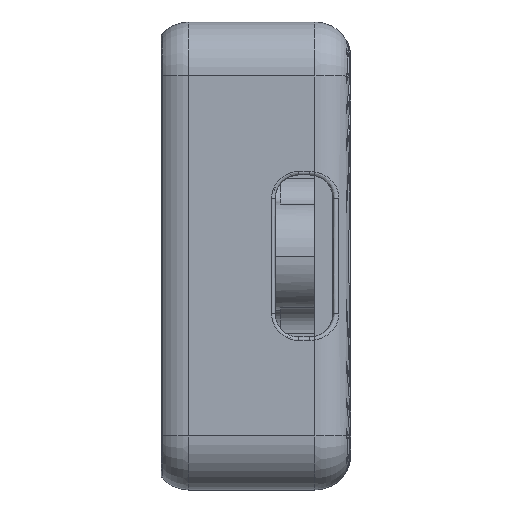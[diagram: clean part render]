
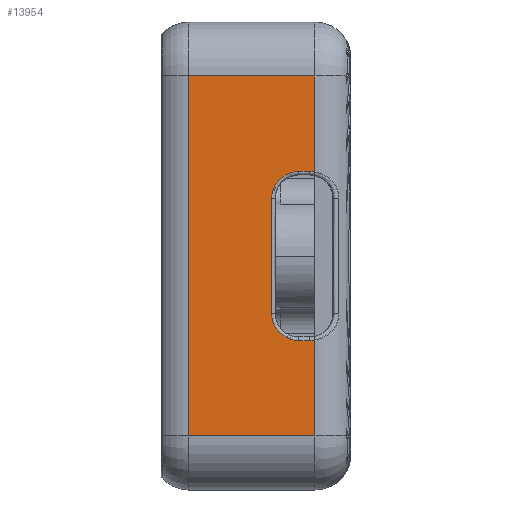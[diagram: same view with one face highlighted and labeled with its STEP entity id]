
A CAD part, left-side view. The second image highlights one B-rep face of the part: STEP entity #13954.
In plain terms, the highlighted planar face has unit normal (-1, 0, 0).
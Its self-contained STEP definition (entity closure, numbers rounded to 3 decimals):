
#6 = CARTESIAN_POINT ( 'NONE',  ( 0., 2., -17.67 ) ) ;
#168 = FACE_OUTER_BOUND ( 'NONE', #9553, .T. ) ;
#278 = CARTESIAN_POINT ( 'NONE',  ( 0., 11., -26. ) ) ;
#317 = VERTEX_POINT ( 'NONE', #15005 ) ;
#646 = B_SPLINE_CURVE_WITH_KNOTS ( 'NONE', 3,
 ( #5828, #3490, #20816, #20583 ),
 .UNSPECIFIED., .F., .F.,
 ( 4, 4 ),
 ( 0., 1. ),
 .UNSPECIFIED. ) ;
#658 = CARTESIAN_POINT ( 'NONE',  ( 0., 2.3, -8.3 ) ) ;
#693 = B_SPLINE_CURVE_WITH_KNOTS ( 'NONE', 3,
 ( #2995, #2492, #19717, #2870 ),
 .UNSPECIFIED., .F., .F.,
 ( 4, 4 ),
 ( 0., 1. ),
 .UNSPECIFIED. ) ;
#975 = CARTESIAN_POINT ( 'NONE',  ( 0., 3.822, -8.601 ) ) ;
#1414 = EDGE_CURVE ( 'NONE', #317, #17424, #13981, .T. ) ;
#1947 = EDGE_CURVE ( 'NONE', #12826, #21835, #10727, .T. ) ;
#2238 = ORIENTED_EDGE ( 'NONE', *, *, #3004, .T. ) ;
#2337 = CARTESIAN_POINT ( 'NONE',  ( 0., 3.66, -8.493 ) ) ;
#2492 = CARTESIAN_POINT ( 'NONE',  ( 0., 4.4, -14.067 ) ) ;
#2870 = CARTESIAN_POINT ( 'NONE',  ( 0., 4.4, -9.8 ) ) ;
#2995 = CARTESIAN_POINT ( 'NONE',  ( 0., 4.4, -16.2 ) ) ;
#3004 = EDGE_CURVE ( 'NONE', #17424, #17288, #10858, .T. ) ;
#3068 = CARTESIAN_POINT ( 'NONE',  ( 0., 2.3, -8.3 ) ) ;
#3185 = EDGE_CURVE ( 'NONE', #4509, #317, #21936, .T. ) ;
#3270 = DIRECTION ( 'NONE',  ( 0., 0., -1. ) ) ;
#3321 = CARTESIAN_POINT ( 'NONE',  ( 0., 4.4, -16.2 ) ) ;
#3490 = CARTESIAN_POINT ( 'NONE',  ( 0., 2.5, -17.7 ) ) ;
#3607 = CARTESIAN_POINT ( 'NONE',  ( 0., 2.099, -17.69 ) ) ;
#3614 = ORIENTED_EDGE ( 'NONE', *, *, #17025, .T. ) ;
#3646 = EDGE_CURVE ( 'NONE', #4437, #4509, #5085, .T. ) ;
#4149 = EDGE_CURVE ( 'NONE', #11379, #4437, #693, .T. ) ;
#4434 = CARTESIAN_POINT ( 'NONE',  ( 0., 4.4, -9.604 ) ) ;
#4437 = VERTEX_POINT ( 'NONE', #5383 ) ;
#4509 = VERTEX_POINT ( 'NONE', #13423 ) ;
#4521 = AXIS2_PLACEMENT_3D ( 'NONE', #278, #23188, #17248 ) ;
#5008 = LINE ( 'NONE', #12313, #12702 ) ;
#5084 = B_SPLINE_CURVE_WITH_KNOTS ( 'NONE', 3,
 ( #6, #3607, #9309, #11517 ),
 .UNSPECIFIED., .F., .F.,
 ( 4, 4 ),
 ( 0., 1. ),
 .UNSPECIFIED. ) ;
#5085 = B_SPLINE_CURVE_WITH_KNOTS ( 'NONE', 3,
 ( #23148, #4434, #19309, #19680, #8170, #975, #2337, #15711, #12124, #9896 ),
 .UNSPECIFIED., .F., .F.,
 ( 4, 2, 2, 2, 4 ),
 ( 0., 0.25, 0.5, 0.75, 1. ),
 .UNSPECIFIED. ) ;
#5104 = ORIENTED_EDGE ( 'NONE', *, *, #7294, .T. ) ;
#5271 = DIRECTION ( 'NONE',  ( 0., 0., 1. ) ) ;
#5298 = EDGE_CURVE ( 'NONE', #10012, #11379, #13834, .T. ) ;
#5383 = CARTESIAN_POINT ( 'NONE',  ( 0., 4.4, -9.8 ) ) ;
#5384 = CARTESIAN_POINT ( 'NONE',  ( 0., 11., -23. ) ) ;
#5828 = CARTESIAN_POINT ( 'NONE',  ( 0., 2.3, -17.7 ) ) ;
#5910 = ORIENTED_EDGE ( 'NONE', *, *, #3185, .T. ) ;
#6618 = CARTESIAN_POINT ( 'NONE',  ( 0., 2.7, -8.3 ) ) ;
#7039 = CARTESIAN_POINT ( 'NONE',  ( 0., 3.66, -17.507 ) ) ;
#7291 = CARTESIAN_POINT ( 'NONE',  ( 0., 4.207, -16.96 ) ) ;
#7294 = EDGE_CURVE ( 'NONE', #17288, #11409, #10185, .T. ) ;
#7843 = LINE ( 'NONE', #19462, #20343 ) ;
#8170 = CARTESIAN_POINT ( 'NONE',  ( 0., 4.099, -8.878 ) ) ;
#8340 = VERTEX_POINT ( 'NONE', #18332 ) ;
#8658 = CARTESIAN_POINT ( 'NONE',  ( 0., 2., -8.33 ) ) ;
#9309 = CARTESIAN_POINT ( 'NONE',  ( 0., 2.199, -17.7 ) ) ;
#9388 = CARTESIAN_POINT ( 'NONE',  ( 0., 3.822, -17.399 ) ) ;
#9394 = ORIENTED_EDGE ( 'NONE', *, *, #4149, .T. ) ;
#9553 = EDGE_LOOP ( 'NONE', ( #5910, #12081, #2238, #5104, #15028, #19324, #3614, #14971, #18331, #18257, #9394, #19280 ) ) ;
#9707 = PLANE ( 'NONE',  #4521 ) ;
#9896 = CARTESIAN_POINT ( 'NONE',  ( 0., 2.9, -8.3 ) ) ;
#10012 = VERTEX_POINT ( 'NONE', #20943 ) ;
#10126 = CARTESIAN_POINT ( 'NONE',  ( 0., 4.4, -16.2 ) ) ;
#10185 = LINE ( 'NONE', #17733, #17690 ) ;
#10192 = EDGE_CURVE ( 'NONE', #16471, #10012, #646, .T. ) ;
#10219 = EDGE_CURVE ( 'NONE', #8340, #16471, #5084, .T. ) ;
#10727 = LINE ( 'NONE', #5384, #20117 ) ;
#10763 = CARTESIAN_POINT ( 'NONE',  ( 0., 2.9, -17.7 ) ) ;
#10858 = LINE ( 'NONE', #11219, #20371 ) ;
#10971 = DIRECTION ( 'NONE',  ( 0., -1., 0. ) ) ;
#11219 = CARTESIAN_POINT ( 'NONE',  ( 0., 2., -26. ) ) ;
#11249 = CARTESIAN_POINT ( 'NONE',  ( 0., 4.361, -16.588 ) ) ;
#11379 = VERTEX_POINT ( 'NONE', #10126 ) ;
#11409 = VERTEX_POINT ( 'NONE', #23608 ) ;
#11517 = CARTESIAN_POINT ( 'NONE',  ( 0., 2.3, -17.7 ) ) ;
#11614 = CARTESIAN_POINT ( 'NONE',  ( 0., 2., -8.33 ) ) ;
#12081 = ORIENTED_EDGE ( 'NONE', *, *, #1414, .T. ) ;
#12124 = CARTESIAN_POINT ( 'NONE',  ( 0., 3.096, -8.3 ) ) ;
#12313 = CARTESIAN_POINT ( 'NONE',  ( 0., 9., -23. ) ) ;
#12702 = VECTOR ( 'NONE', #3270, 1000. ) ;
#12826 = VERTEX_POINT ( 'NONE', #14385 ) ;
#13423 = CARTESIAN_POINT ( 'NONE',  ( 0., 2.9, -8.3 ) ) ;
#13834 = B_SPLINE_CURVE_WITH_KNOTS ( 'NONE', 3,
 ( #10763, #22143, #18424, #7039, #9388, #18304, #7291, #11249, #20415, #3321 ),
 .UNSPECIFIED., .F., .F.,
 ( 4, 2, 2, 2, 4 ),
 ( 0., 0.25, 0.5, 0.75, 1. ),
 .UNSPECIFIED. ) ;
#13954 = ADVANCED_FACE ( 'NONE', ( #168 ), #9707, .F. ) ;
#13963 = CARTESIAN_POINT ( 'NONE',  ( 0., 2.099, -8.31 ) ) ;
#13981 = B_SPLINE_CURVE_WITH_KNOTS ( 'NONE', 3,
 ( #3068, #17933, #13963, #8658 ),
 .UNSPECIFIED., .F., .F.,
 ( 4, 4 ),
 ( 0., 1. ),
 .UNSPECIFIED. ) ;
#14041 = CARTESIAN_POINT ( 'NONE',  ( 0., 2.9, -8.3 ) ) ;
#14251 = DIRECTION ( 'NONE',  ( 0., 1., 0. ) ) ;
#14385 = CARTESIAN_POINT ( 'NONE',  ( 0., 9., -23. ) ) ;
#14971 = ORIENTED_EDGE ( 'NONE', *, *, #10219, .T. ) ;
#15005 = CARTESIAN_POINT ( 'NONE',  ( 0., 2.3, -8.3 ) ) ;
#15028 = ORIENTED_EDGE ( 'NONE', *, *, #21866, .T. ) ;
#15711 = CARTESIAN_POINT ( 'NONE',  ( 0., 3.288, -8.339 ) ) ;
#16471 = VERTEX_POINT ( 'NONE', #19393 ) ;
#17025 = EDGE_CURVE ( 'NONE', #21835, #8340, #7843, .T. ) ;
#17248 = DIRECTION ( 'NONE',  ( 0., 0., -1. ) ) ;
#17288 = VERTEX_POINT ( 'NONE', #19204 ) ;
#17424 = VERTEX_POINT ( 'NONE', #11614 ) ;
#17690 = VECTOR ( 'NONE', #14251, 1000. ) ;
#17733 = CARTESIAN_POINT ( 'NONE',  ( 0., 11., -3. ) ) ;
#17933 = CARTESIAN_POINT ( 'NONE',  ( 0., 2.199, -8.3 ) ) ;
#18257 = ORIENTED_EDGE ( 'NONE', *, *, #5298, .T. ) ;
#18304 = CARTESIAN_POINT ( 'NONE',  ( 0., 4.099, -17.122 ) ) ;
#18331 = ORIENTED_EDGE ( 'NONE', *, *, #10192, .T. ) ;
#18332 = CARTESIAN_POINT ( 'NONE',  ( 0., 2., -17.67 ) ) ;
#18424 = CARTESIAN_POINT ( 'NONE',  ( 0., 3.288, -17.661 ) ) ;
#19204 = CARTESIAN_POINT ( 'NONE',  ( 0., 2., -3. ) ) ;
#19280 = ORIENTED_EDGE ( 'NONE', *, *, #3646, .T. ) ;
#19309 = CARTESIAN_POINT ( 'NONE',  ( 0., 4.361, -9.412 ) ) ;
#19324 = ORIENTED_EDGE ( 'NONE', *, *, #1947, .T. ) ;
#19393 = CARTESIAN_POINT ( 'NONE',  ( 0., 2.3, -17.7 ) ) ;
#19462 = CARTESIAN_POINT ( 'NONE',  ( 0., 2., -26. ) ) ;
#19680 = CARTESIAN_POINT ( 'NONE',  ( 0., 4.207, -9.04 ) ) ;
#19717 = CARTESIAN_POINT ( 'NONE',  ( 0., 4.4, -11.933 ) ) ;
#19739 = CARTESIAN_POINT ( 'NONE',  ( 0., 2.5, -8.3 ) ) ;
#20117 = VECTOR ( 'NONE', #10971, 1000. ) ;
#20343 = VECTOR ( 'NONE', #21079, 1000. ) ;
#20371 = VECTOR ( 'NONE', #5271, 1000. ) ;
#20415 = CARTESIAN_POINT ( 'NONE',  ( 0., 4.4, -16.396 ) ) ;
#20583 = CARTESIAN_POINT ( 'NONE',  ( 0., 2.9, -17.7 ) ) ;
#20816 = CARTESIAN_POINT ( 'NONE',  ( 0., 2.7, -17.7 ) ) ;
#20943 = CARTESIAN_POINT ( 'NONE',  ( 0., 2.9, -17.7 ) ) ;
#21079 = DIRECTION ( 'NONE',  ( 0., 0., 1. ) ) ;
#21835 = VERTEX_POINT ( 'NONE', #22223 ) ;
#21866 = EDGE_CURVE ( 'NONE', #11409, #12826, #5008, .T. ) ;
#21936 = B_SPLINE_CURVE_WITH_KNOTS ( 'NONE', 3,
 ( #14041, #6618, #19739, #658 ),
 .UNSPECIFIED., .F., .F.,
 ( 4, 4 ),
 ( 0., 1. ),
 .UNSPECIFIED. ) ;
#22143 = CARTESIAN_POINT ( 'NONE',  ( 0., 3.096, -17.7 ) ) ;
#22223 = CARTESIAN_POINT ( 'NONE',  ( 0., 2., -23. ) ) ;
#23148 = CARTESIAN_POINT ( 'NONE',  ( 0., 4.4, -9.8 ) ) ;
#23188 = DIRECTION ( 'NONE',  ( 1., 0., 0. ) ) ;
#23608 = CARTESIAN_POINT ( 'NONE',  ( 0., 9., -3. ) ) ;
